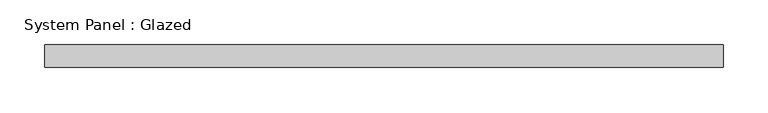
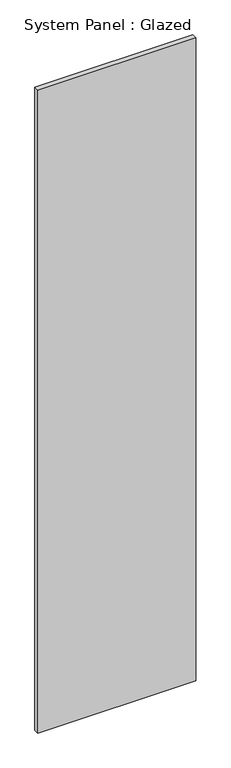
"""IFC4 building model written with IfcOpenShell, lengths in millimetres: plate geometry, System Panel : Glazed."""

from ifc_helpers import new_model, si_unit, origin, origin_with_axes, place, context, project, spatial, polyline, outline, extrude, source, transform, mapped, element, save


def system_panel_glazed_e1af93cb(model_context):
    return source(origin(), model_context, "Body", "SweptSolid", [
        extrude(outline(polyline([(377.5, 24.5), (-377.5, 24.5), (-377.5, 49.5), (377.5, 49.5), (377.5, 24.5)])), origin_with_axes(), (0.0, 0.0, 1.0), 3250.0),
    ])


if __name__ == "__main__":
    model = new_model("IFC4")
    model_context = context("Model", 3, world=origin())
    ifc_project = project(units=[si_unit("LENGTHUNIT", "METRE", prefix="MILLI")], contexts=[model_context])
    site = spatial("IfcSite", under=ifc_project)
    building = spatial("IfcBuilding", under=site)
    placement = place(None, origin())
    system_panel_glazed_shape = system_panel_glazed_e1af93cb(model_context)
    element("IfcPlate", 1, ObjectType="System Panel : Glazed", at=placement, inside=building, context=model_context, shape_type="MappedRepresentation", body=[
        mapped(system_panel_glazed_shape, transform((0.0, 0.0, 0.0), x_axis=(1.0, 0.0, 0.0), y_axis=(0.0, 1.0, 0.0), z_axis=(0.0, 0.0, 1.0))),
    ])
    save(model, "model.ifc")
